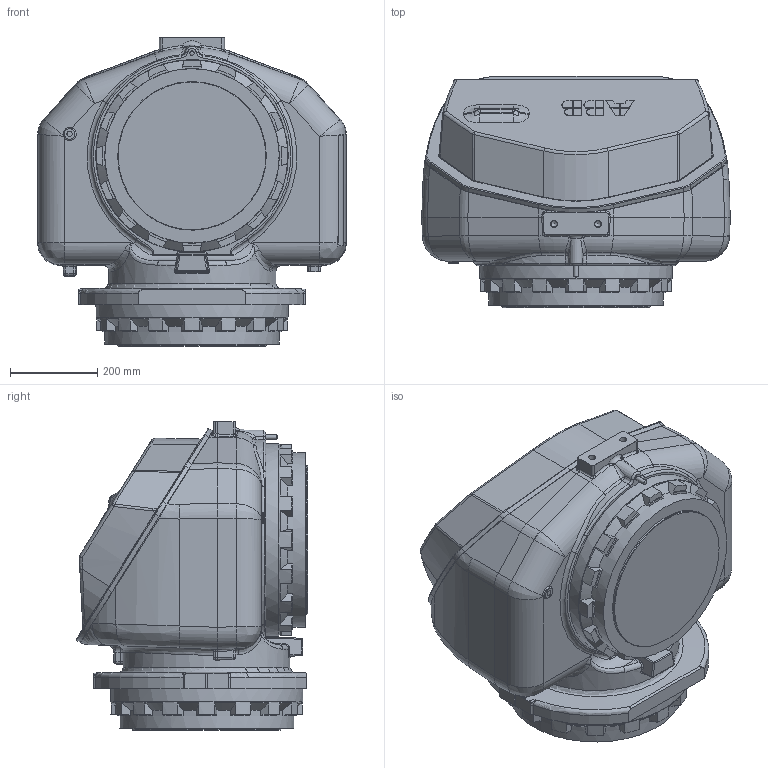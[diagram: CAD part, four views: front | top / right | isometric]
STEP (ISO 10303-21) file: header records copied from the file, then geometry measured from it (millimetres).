
FILE_DESCRIPTION (( 'STEP AP214' ), '1' );
FILE_NAME ('IRB5500-22_rev00_LINK1_CAD.STEP', '2018-07-20T05:29:06', ( '' ), ( '' ), 'SwSTEP 2.0', 'SolidWorks 2016', '' );
FILE_SCHEMA (( 'AUTOMOTIVE_DESIGN' ));
Length unit declared in the file: millimetre
Products named in the file (1): IRB5500-22_rev00_LINK1_CAD
Bounding box: 705.66 x 529.29 x 706.62 mm (x, y, z)
Volume: 149855827.3 mm3; surface area: 1911933 mm2
Topology: 1 solids, 3 shells, 858 faces, 2137 edges, 1278 vertices
Faces by surface type: plane 327, cylinder 217, bspline 180, torus 55, cone 53, sphere 26
Full cylindrical faces by diameter (mm): 8.5 x2, 10 x1, 10.2 x4, 12 x2, 14 x2, 16 x2, 19 x1, 27 x1, 30 x1, 340 x2, 399 x2, 438 x2, 440 x2
Entity records: 34835 total; most frequent: CARTESIAN_POINT 15458, ORIENTED_EDGE 4110, DIRECTION 3621, EDGE_CURVE 2055, AXIS2_PLACEMENT_3D 1380, VERTEX_POINT 1262, EDGE_LOOP 917, FACE_OUTER_BOUND 882
